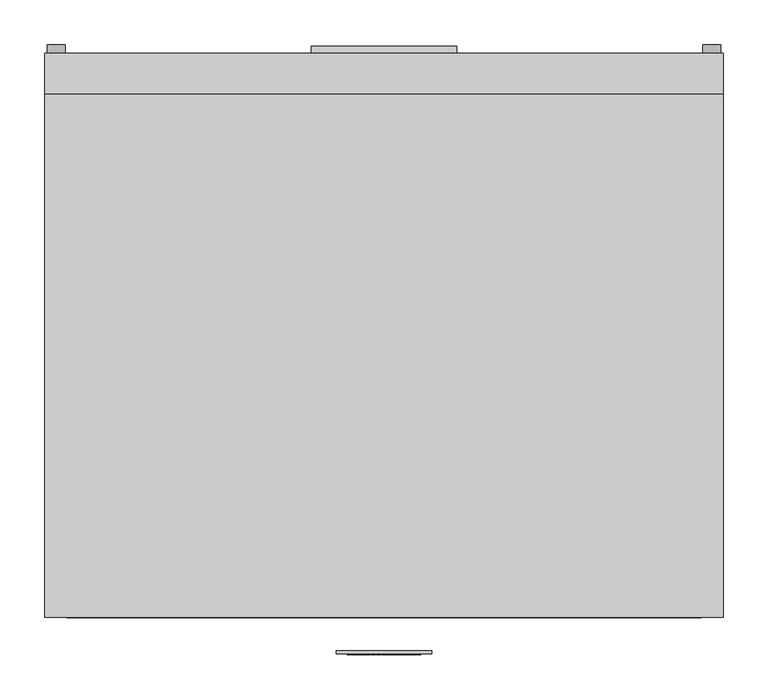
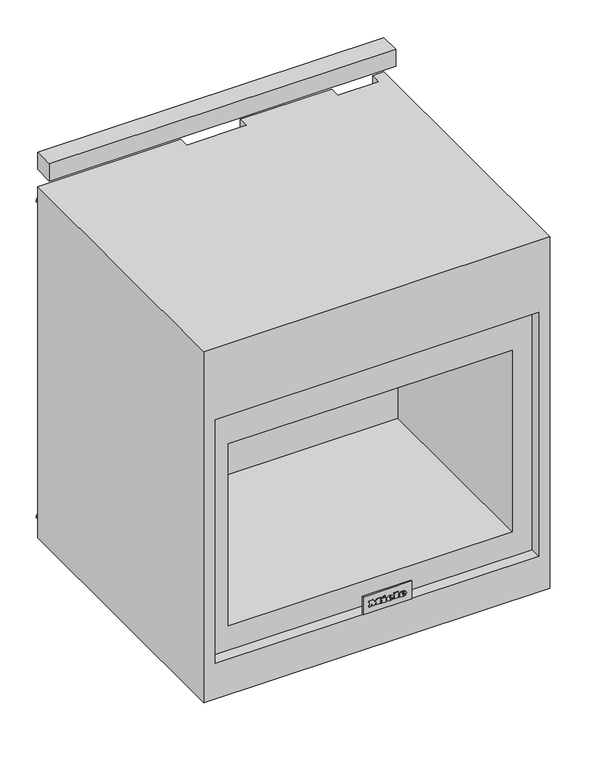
"""IFC4 building model written with IfcOpenShell, lengths in millimetres: proxy geometry, 11791560_USA_HR1924-3LP_EDST-CLS : 25192482_USA_11791560_HR1924-3LP_EDST-CLS."""

from ifc_helpers import new_model, si_unit, point, frame, frame_2d, origin, place, context, project, spatial, polyline, circle_curve, ellipse_curve, trimmed, segment, composite_curve, outline, extrude, faceted_brep, source, transform, mapped, element, save
from ifc_brep_helpers import plane_surface, cylinder_surface, revolved_surface, extruded_surface, advanced_brep


def specialty_equipment_ec7f813b(model_context):
    return source(origin(), model_context, "Body", "SolidModel", [
        faceted_brep([(356.0, -608.0, 695.0), (-356.0, -608.0, 695.0), (-356.0, -608.0, 128.0), (356.0, -608.0, 128.0), (312.0, -608.0, 608.0), (312.0, -608.0, 185.0), (-312.0, -608.0, 185.0), (-312.0, -608.0, 608.0), (356.0, -633.0, 128.0), (356.0, -633.0, 695.0), (-356.0, -633.0, 128.0), (-356.0, -633.0, 695.0), (-381.0, 0.0, 862.0), (-381.0, -633.0, 862.0), (381.0, -633.0, 862.0), (381.0, 0.0, 862.0), (356.0, 0.0, 862.0), (356.0, -23.0, 862.0), (266.0, -23.0, 862.0), (266.0, 0.0, 862.0), (65.0, 0.0, 862.0), (65.0, -23.0, 862.0), (-66.0, -23.0, 862.0), (-66.0, 0.0, 862.0), (381.0, 0.0, 45.0), (381.0, -633.0, 45.0), (-381.0, -633.0, 45.0), (-381.0, 0.0, 45.0), (-356.0, 0.0, 45.0), (-356.0, -75.0, 45.0), (356.0, -75.0, 45.0), (356.0, 0.0, 45.0), (266.0, 0.0, 132.0), (65.0, 0.0, 132.0), (-66.0, 0.0, 132.0), (-270.0, 0.0, 132.0), (-270.0, 0.0, 670.0), (-186.0, 0.0, 670.0), (-186.0, 0.0, 784.0), (-335.0, 0.0, 784.0), (-335.0, 0.0, 132.0), (-356.0, 0.0, 132.0), (312.0, -173.0, 608.0), (-312.0, -173.0, 608.0), (-312.0, -173.0, 185.0), (312.0, -173.0, 185.0), (-356.0, -75.0, 132.0), (356.0, -75.0, 132.0), (-335.0, -73.0, 132.0), (-270.0, -73.0, 132.0), (-66.0, -23.0, 132.0), (65.0, -23.0, 132.0), (266.0, -23.0, 132.0), (356.0, -23.0, 132.0), (-335.0, -73.0, 784.0), (-270.0, -73.0, 784.0), (-186.0, -65.0, 784.0), (-270.0, -65.0, 784.0), (-270.0, -65.0, 670.0), (-186.0, -65.0, 670.0)], [[[0, 1, 2, 3], [4, 5, 6, 7]], [[0, 3, 8, 9]], [[3, 2, 10, 8]], [[2, 1, 11, 10]], [[1, 0, 9, 11]], [[12, 13, 14, 15, 16, 17, 18, 19, 20, 21, 22, 23]], [[24, 25, 26, 27, 28, 29, 30, 31]], [[20, 19, 32, 33]], [[15, 24, 31, 16]], [[27, 12, 23, 34, 35, 36, 37, 38, 39, 40, 41, 28]], [[13, 12, 27, 26]], [[14, 13, 26, 25], [9, 8, 10, 11]], [[15, 14, 25, 24]], [[42, 43, 44, 45]], [[42, 45, 5, 4]], [[45, 44, 6, 5]], [[44, 43, 7, 6]], [[43, 42, 4, 7]], [[46, 47, 30, 29]], [[47, 46, 41, 40, 48, 49, 35, 34, 50, 51, 33, 32, 52, 53]], [[30, 47, 53, 17, 16, 31]], [[41, 46, 29, 28]], [[54, 55, 49, 48]], [[55, 54, 39, 38, 56, 57]], [[49, 55, 57, 58, 36, 35]], [[39, 54, 48, 40]], [[17, 53, 52, 18]], [[21, 51, 50, 22]], [[51, 21, 20, 33]], [[22, 50, 34, 23]], [[18, 52, 32, 19]], [[57, 56, 59, 58]], [[59, 56, 38, 37]], [[58, 59, 37, 36]]]),
        extrude(outline(polyline([(-335.0, -65.0), (-270.0, -65.0), (-270.0, -73.0), (-335.0, -73.0), (-335.0, -65.0)])), frame((0.0, 0.0, 670.0), z_axis=(0.0, 0.0, 1.0), x_axis=(1.0, 0.0, 0.0)), (0.0, 0.0, 1.0), 114.0),
        extrude(outline(composite_curve([segment(polyline([(-301.0941465, -34.8216074), (-297.0193946, -34.8216074), (-297.0193946, -36.0727848), (-299.8300756, -36.0727848), (-299.8300756, -37.8953779), (-298.5547934, -38.5734575), (-296.8554891, -38.8730907)]), True, "CONTINUOUS"), segment(trimmed(circle_curve(frame_2d((-296.7763582, -35.1835188)), 3.6904203), [point((-296.8554891, -38.8730907))], [point((-293.0917956, -34.975672))], True, "CARTESIAN"), True, "CONTINUOUS"), segment(trimmed(circle_curve(frame_2d((-297.2742118, -35.2116028)), 4.1890654), [point((-293.0917956, -34.975672))], [point((-296.8924604, -31.0399683))], True, "CARTESIAN"), True, "CONTINUOUS"), segment(trimmed(circle_curve(frame_2d((-297.1434541, -33.7827322)), 2.7542243), [point((-296.8924604, -31.0399683))], [point((-299.2311401, -31.9862582))], True, "CARTESIAN"), True, "CONTINUOUS"), segment(polyline([(-299.2311401, -31.9862582), (-299.7913432, -33.1348449), (-300.9545959, -32.808521), (-300.2222817, -31.1459412)]), True, "CONTINUOUS"), segment(trimmed(circle_curve(frame_2d((-297.0056573, -34.3038983)), 4.5077007), [point((-300.2222817, -31.1459412))], [point((-296.8478593, -29.7989604))], False, "CARTESIAN"), True, "CONTINUOUS"), segment(trimmed(circle_curve(frame_2d((-297.0297107, -35.0029797)), 5.2071956), [point((-296.8478593, -29.7989604))], [point((-291.8225151, -35.0029797))], False, "CARTESIAN"), True, "CONTINUOUS"), segment(trimmed(circle_curve(frame_2d((-297.0187023, -34.9634409)), 5.1963376), [point((-291.8225151, -35.0029797))], [point((-297.0187023, -40.1597785))], False, "CARTESIAN"), True, "CONTINUOUS"), segment(polyline([(-297.0187023, -40.1597785), (-299.0821579, -39.7823822), (-301.0941465, -38.5734575), (-301.0941465, -34.8216074)]), True, "CONTINUOUS")], self_intersect=False)), frame((0.0, 0.0, 753.0), z_axis=(0.0, 0.0, 1.0), x_axis=(1.0, 0.0, 0.0)), (0.0, 0.0, 1.0), 1.0),
        extrude(outline(composite_curve([segment(polyline([(-311.4581842, -37.6489066), (-310.202206, -37.8031213), (-311.1593436, -39.5606642)]), True, "CONTINUOUS"), segment(trimmed(circle_curve(frame_2d((-313.3057471, -36.6354063)), 3.6282478), [point((-311.1593436, -39.5606642))], [point((-314.8962663, -39.8964538))], False, "CARTESIAN"), True, "CONTINUOUS"), segment(trimmed(circle_curve(frame_2d((-313.7731504, -37.593725)), 2.5620205), [point((-314.8962663, -39.8964538))], [point((-316.32893, -37.7724425))], False, "CARTESIAN"), True, "CONTINUOUS"), segment(trimmed(circle_curve(frame_2d((-314.617737, -37.6527843)), 1.7153715), [point((-316.32893, -37.7724425))], [point((-315.147816, -36.021369))], False, "CARTESIAN"), True, "CONTINUOUS"), segment(polyline([(-315.147816, -36.021369), (-313.3069947, -35.4232499), (-311.987673, -33.9770867)]), True, "CONTINUOUS"), segment(trimmed(circle_curve(frame_2d((-313.1408399, -36.351197)), 2.6393548), [point((-311.987673, -33.9770867))], [point((-314.2940069, -33.9770867))], True, "CARTESIAN"), True, "CONTINUOUS"), segment(polyline([(-314.2940069, -33.9770867), (-314.7553884, -34.6611129), (-316.0084996, -34.5072502), (-315.5756304, -33.3795875)]), True, "CONTINUOUS"), segment(trimmed(circle_curve(frame_2d((-312.9527143, -36.6576461)), 4.1982564), [point((-315.5756304, -33.3795875))], [point((-313.0505395, -32.4605295))], False, "CARTESIAN"), True, "CONTINUOUS"), segment(trimmed(circle_curve(frame_2d((-312.9805679, -35.4626064)), 3.0028922), [point((-313.0505395, -32.4605295))], [point((-310.5718203, -33.6694816))], False, "CARTESIAN"), True, "CONTINUOUS"), segment(trimmed(circle_curve(frame_2d((-312.4380028, -34.5301363)), 2.0550823), [point((-310.5718203, -33.6694816))], [point((-311.4341096, -36.323335))], False, "CARTESIAN"), True, "CONTINUOUS"), segment(polyline([(-311.4341096, -36.323335), (-313.3494535, -36.9828408), (-315.0597255, -37.9076387), (-314.6768706, -38.6156702)]), True, "CONTINUOUS"), segment(trimmed(circle_curve(frame_2d((-313.3695779, -35.6018954)), 3.2850956), [point((-314.6768706, -38.6156702))], [point((-312.0622852, -38.6156702))], True, "CARTESIAN"), True, "CONTINUOUS"), segment(polyline([(-312.0622852, -38.6156702), (-311.4581842, -37.6489066)]), True, "CONTINUOUS")], self_intersect=False)), frame((0.0, 0.0, 753.0), z_axis=(0.0, 0.0, 1.0), x_axis=(1.0, 0.0, 0.0)), (0.0, 0.0, 1.0), 1.0),
        extrude(outline(composite_curve([segment(polyline([(-308.0009008, -40.0), (-309.2635363, -40.0), (-309.0191787, -38.9415709), (-308.8778726, -34.1117735)]), True, "CONTINUOUS"), segment(trimmed(circle_curve(frame_2d((-307.387549, -34.1553762)), 1.4909613), [point((-308.8778726, -34.1117735))], [point((-307.6381402, -32.6856246))], False, "CARTESIAN"), True, "CONTINUOUS"), segment(trimmed(circle_curve(frame_2d((-306.1175682, -37.7832301)), 5.3195602), [point((-307.6381402, -32.6856246))], [point((-304.440667, -32.7348914))], False, "CARTESIAN"), True, "CONTINUOUS"), segment(polyline([(-304.440667, -32.7348914), (-303.3643767, -33.4338425), (-302.8177226, -34.6616478), (-304.0710839, -34.8155412), (-304.6628147, -33.9704619)]), True, "CONTINUOUS"), segment(trimmed(circle_curve(frame_2d((-305.889909, -36.6278559)), 2.9270297), [point((-304.6628147, -33.9704619))], [point((-307.335883, -34.0829271))], True, "CARTESIAN"), True, "CONTINUOUS"), segment(polyline([(-307.335883, -34.0829271), (-307.6819155, -35.289686), (-304.4250607, -35.9227545)]), True, "CONTINUOUS"), segment(trimmed(circle_curve(frame_2d((-304.8373847, -38.0439776)), 2.1609254), [point((-304.4250607, -35.9227545))], [point((-303.2872437, -39.5495212))], False, "CARTESIAN"), True, "CONTINUOUS"), segment(trimmed(circle_curve(frame_2d((-305.2230106, -36.6941434)), 3.4496922), [point((-303.2872437, -39.5495212))], [point((-306.4810512, -39.9062626))], False, "CARTESIAN"), True, "CONTINUOUS"), segment(polyline([(-306.4810512, -39.9062626), (-307.6943945, -39.0566705), (-308.0009008, -40.0)]), True, "CONTINUOUS")], self_intersect=False), holes=[composite_curve([segment(polyline([(-307.6808047, -36.7241112), (-307.4778117, -37.8753414), (-306.6808418, -38.5929363), (-305.3846505, -38.8921857)]), True, "CONTINUOUS"), segment(trimmed(circle_curve(frame_2d((-305.1641539, -37.9371101)), 0.980198), [point((-305.3846505, -38.8921857))], [point((-304.5826105, -37.148063))], True, "CARTESIAN"), True, "CONTINUOUS"), segment(polyline([(-304.5826105, -37.148063), (-305.683896, -36.9339948), (-307.6808047, -36.7241112)]), True, "CONTINUOUS")], self_intersect=False)]), frame((0.0, 0.0, 753.0), z_axis=(0.0, 0.0, 1.0), x_axis=(1.0, 0.0, 0.0)), (0.0, 0.0, 1.0), 1.0),
        extrude(outline(composite_curve([segment(trimmed(circle_curve(frame_2d((-152.0, 39.6862697)), 39.6862697), [point((-112.6710759, 45.0))], [point((-191.3289241, 45.0))], False, "CARTESIAN"), True, "CONTINUOUS"), segment(polyline([(-191.3289241, 45.0), (-112.6710759, 45.0)]), True, "CONTINUOUS")], self_intersect=False)), frame((206.0, 0.0, 0.0), z_axis=(1.0, 0.0, 0.0), x_axis=(0.0, 1.0, 0.0)), (0.0, 0.0, 1.0), 28.0),
        extrude(outline(polyline([(-81.5, 8.0), (81.5, 8.0), (81.5, 0.0), (-81.5, 0.0), (-81.5, 8.0)])), frame((0.0, 0.0, 559.0), z_axis=(0.0, 0.0, 1.0), x_axis=(1.0, 0.0, 0.0)), (0.0, 0.0, 1.0), 237.0),
        extrude(outline(polyline([(275.0, -23.0), (344.0, -23.0), (344.0, -53.0), (275.0, -53.0), (275.0, -23.0)])), frame((0.0, 0.0, 117.0), z_axis=(0.0, 0.0, 1.0), x_axis=(1.0, 0.0, 0.0)), (0.0, 0.0, 1.0), 15.0),
        extrude(outline(polyline([(-258.0, 0.0), (170.0, 0.0), (170.0, -39.0), (-258.0, -39.0), (-258.0, 0.0)])), frame((0.0, 0.0, 117.0), z_axis=(0.0, 0.0, 1.0), x_axis=(1.0, 0.0, 0.0)), (0.0, 0.0, 1.0), 15.0),
        extrude(outline(composite_curve([segment(trimmed(circle_curve(frame_2d((822.0, 368.0)), 10.0), [point((822.0, 378.0))], [point((822.0, 358.0))], False, "CARTESIAN"), True, "CONTINUOUS"), segment(trimmed(circle_curve(frame_2d((822.0, 368.0)), 10.0), [point((822.0, 358.0))], [point((822.0, 378.0))], False, "CARTESIAN"), True, "CONTINUOUS")], self_intersect=False)), frame((0.0, 0.0, 0.0), z_axis=(0.0, 1.0, 0.0), x_axis=(0.0, 0.0, 1.0)), (0.0, 0.0, 1.0), 10.0),
        extrude(outline(composite_curve([segment(trimmed(circle_curve(frame_2d((87.0, 368.0)), 10.0), [point((87.0, 378.0))], [point((87.0, 358.0))], False, "CARTESIAN"), True, "CONTINUOUS"), segment(trimmed(circle_curve(frame_2d((87.0, 368.0)), 10.0), [point((87.0, 358.0))], [point((87.0, 378.0))], False, "CARTESIAN"), True, "CONTINUOUS")], self_intersect=False)), frame((0.0, 0.0, 0.0), z_axis=(0.0, 1.0, 0.0), x_axis=(0.0, 0.0, 1.0)), (0.0, 0.0, 1.0), 10.0),
        extrude(outline(composite_curve([segment(trimmed(circle_curve(frame_2d((822.0, -368.0)), 10.0), [point((822.0, -358.0))], [point((822.0, -378.0))], False, "CARTESIAN"), True, "CONTINUOUS"), segment(trimmed(circle_curve(frame_2d((822.0, -368.0)), 10.0), [point((822.0, -378.0))], [point((822.0, -358.0))], False, "CARTESIAN"), True, "CONTINUOUS")], self_intersect=False)), frame((0.0, 0.0, 0.0), z_axis=(0.0, 1.0, 0.0), x_axis=(0.0, 0.0, 1.0)), (0.0, 0.0, 1.0), 10.0),
        extrude(outline(composite_curve([segment(trimmed(circle_curve(frame_2d((87.0, -368.0)), 10.0), [point((87.0, -358.0))], [point((87.0, -378.0))], False, "CARTESIAN"), True, "CONTINUOUS"), segment(trimmed(circle_curve(frame_2d((87.0, -368.0)), 10.0), [point((87.0, -378.0))], [point((87.0, -358.0))], False, "CARTESIAN"), True, "CONTINUOUS")], self_intersect=False)), frame((0.0, 0.0, 0.0), z_axis=(0.0, 1.0, 0.0), x_axis=(0.0, 0.0, 1.0)), (0.0, 0.0, 1.0), 10.0),
        advanced_brep(
        [(32.17, -675.0, 177.1995), (32.17, -675.0, 178.563), (41.2015, -675.0, 178.563), (25.4875, -675.0, 178.563), (29.2, -675.0, 174.0), (40.972, -675.0, 177.1995), (36.895, -675.0, 177.1995), (33.682, -675.0, 175.6875), (32.17, -675.0, 180.291), (32.17, -675.0, 181.7625), (34.4785, -675.0, 181.7625), (34.4785, -675.0, 180.291), (32.17, -674.0, 177.1995), (33.682, -674.0, 175.6875), (36.895, -674.0, 177.1995), (40.972, -674.0, 177.1995), (29.2, -674.0, 174.0), (25.4875, -674.0, 178.563), (41.2015, -674.0, 178.563), (32.17, -674.0, 178.563), (32.17, -674.0, 180.291), (34.4785, -674.0, 180.291), (34.4785, -674.0, 181.7625), (32.17, -674.0, 181.7625)],
        [
            (0, 1),
            (1, 2),
            (2, 3, ellipse_curve(frame((33.3445, -675.0, 178.563), z_axis=(0.0, -1.0, 0.0), x_axis=(-1.0, 0.0, 0.0)), 7.857, 6.4935)),
            (3, 4, circle_curve(frame((30.7120736, -675.0, 179.022), z_axis=(0.0, -1.0, 0.0), x_axis=(0.0, 0.0, -1.0)), 5.2446974)),
            (4, 5, circle_curve(frame((33.1872142, -675.0, 182.586), z_axis=(0.0, -1.0, 0.0), x_axis=(0.0, 0.0, -1.0)), 9.46664)),
            (5, 6),
            (6, 7, circle_curve(frame((34.3419118, -675.0, 178.455), z_axis=(0.0, 1.0, 0.0), x_axis=(0.0, 0.0, -1.0)), 2.8450905)),
            (7, 0, circle_curve(frame((33.682, -675.0, 177.1995), z_axis=(0.0, 1.0, 0.0), x_axis=(0.0, 0.0, -1.0)), 1.512)),
            (8, 9),
            (9, 10, circle_curve(frame((33.32425, -675.0, 181.7625), z_axis=(0.0, 1.0, 0.0), x_axis=(0.0, 0.0, -1.0)), 1.15425)),
            (10, 11),
            (11, 8),
            (12, 13, circle_curve(frame((33.682, -674.0, 177.1995), z_axis=(0.0, -1.0, 0.0), x_axis=(0.0, 0.0, -1.0)), 1.512)),
            (13, 14, circle_curve(frame((34.3419118, -674.0, 178.455), z_axis=(0.0, -1.0, 0.0), x_axis=(0.0, 0.0, -1.0)), 2.8450905)),
            (14, 15),
            (15, 16, circle_curve(frame((33.1872142, -674.0, 182.586), z_axis=(0.0, 1.0, 0.0), x_axis=(0.0, 0.0, -1.0)), 9.46664)),
            (16, 17, circle_curve(frame((30.7120736, -674.0, 179.022), z_axis=(0.0, 1.0, 0.0), x_axis=(0.0, 0.0, -1.0)), 5.2446974)),
            (17, 18, ellipse_curve(frame((33.3445, -674.0, 178.563), z_axis=(0.0, 1.0, 0.0), x_axis=(-1.0, 0.0, 0.0)), 7.857, 6.4935)),
            (18, 19),
            (19, 12),
            (20, 21),
            (21, 22),
            (22, 23, circle_curve(frame((33.32425, -674.0, 181.7625), z_axis=(0.0, -1.0, 0.0), x_axis=(0.0, 0.0, -1.0)), 1.15425)),
            (23, 20),
            (0, 12),
            (19, 1),
            (18, 2),
            (5, 15),
            (14, 6),
            (17, 3),
            (13, 7),
            (16, 4),
            (8, 20),
            (23, 9),
            (22, 10),
            (21, 11),
        ],
        [
            plane_surface(frame((32.17, -675.0, 178.563), z_axis=(0.0, -1.0, 0.0), x_axis=(0.0, 0.0, 1.0))),
            plane_surface(frame((32.17, -674.0, 178.563), z_axis=(0.0, 1.0, 0.0), x_axis=(0.0, 0.0, -1.0))),
            plane_surface(frame((32.17, -675.0, 177.1995), z_axis=(1.0, 0.0, 0.0), x_axis=(0.0, 1.0, 0.0))),
            plane_surface(frame((32.17, -675.0, 178.563), z_axis=(0.0, 0.0, -1.0), x_axis=(0.0, 1.0, 0.0))),
            plane_surface(frame((40.972, -675.0, 177.1995), z_axis=(0.0, 0.0, 1.0), x_axis=(0.0, 1.0, 0.0))),
            extruded_surface(trimmed(ellipse_curve(frame((33.3445, -673.0, 178.563), z_axis=(0.0, -1.0, 0.0), x_axis=(-1.0, 0.0, 0.0)), 7.857, 6.4935), [point((41.2015, -673.0, 178.563))], [point((25.4875, -673.0, 178.563))], True, "CARTESIAN"), (0.0, -1.0, 0.0), 1.0),
            revolved_surface(polyline([(34.3419118, -674.0, 175.60990950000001), (34.3419118, -675.0, 175.60990950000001)]), (34.3419118, -674.0, 178.455), (0.0, 1.0, 0.0)),
            revolved_surface(polyline([(33.682, -674.0, 175.6875), (33.682, -675.0, 175.6875)]), (33.682, -674.0, 177.1995), (0.0, 1.0, 0.0)),
            cylinder_surface(frame((30.7120736, -674.0, 179.022), z_axis=(0.0, -1.0, 0.0), x_axis=(0.0, 0.0, -1.0)), 5.2446974),
            cylinder_surface(frame((33.1872142, -674.0, 182.586), z_axis=(0.0, -1.0, 0.0), x_axis=(0.0, 0.0, -1.0)), 9.46664),
            plane_surface(frame((32.17, -675.0, 180.291), z_axis=(1.0, 0.0, 0.0), x_axis=(0.0, 1.0, 0.0))),
            revolved_surface(polyline([(33.32425, -674.0, 180.60825), (33.32425, -675.0, 180.60825)]), (33.32425, -674.0, 181.7625), (0.0, 1.0, 0.0)),
            plane_surface(frame((34.4785, -675.0, 181.7625), z_axis=(-1.0, 0.0, 0.0), x_axis=(0.0, 1.0, 0.0))),
            plane_surface(frame((34.4785, -675.0, 180.291), z_axis=(0.0, 0.0, 1.0), x_axis=(0.0, 1.0, 0.0))),
        ],
        [
            (0, [[1, 2, 3, 4, 5, 6, 7, 8], [9, 10, 11, 12]]),
            (1, [[13, 14, 15, 16, 17, 18, 19, 20], [21, 22, 23, 24]]),
            (2, [[-1, 25, -20, 26]]),
            (3, [[-2, -26, -19, 27]]),
            (4, [[-6, 28, -15, 29]]),
            (5, [[-3, -27, -18, 30]]),
            (6, [[-7, -29, -14, 31]]),
            (7, [[-8, -31, -13, -25]]),
            (8, [[-4, -30, -17, 32]]),
            (9, [[-5, -32, -16, -28]]),
            (10, [[-9, 33, -24, 34]]),
            (11, [[-10, -34, -23, 35]]),
            (12, [[-11, -35, -22, 36]]),
            (13, [[-12, -36, -21, -33]]),
        ],
    ),
        advanced_brep(
        [(3.9955, -675.0, 177.1995), (3.9955, -675.0, 178.563), (13.027, -675.0, 178.563), (-2.687, -675.0, 178.563), (1.0255, -675.0, 174.0), (12.7975, -675.0, 177.1995), (8.7205, -675.0, 177.1995), (5.5075, -675.0, 175.6875), (3.9955, -675.0, 180.291), (3.9955, -675.0, 181.7625), (6.304, -675.0, 181.7625), (6.304, -675.0, 180.291), (3.9955, -674.0, 177.1995), (5.5075, -674.0, 175.6875), (8.7205, -674.0, 177.1995), (12.7975, -674.0, 177.1995), (1.0255, -674.0, 174.0), (-2.687, -674.0, 178.563), (13.027, -674.0, 178.563), (3.9955, -674.0, 178.563), (3.9955, -674.0, 180.291), (6.304, -674.0, 180.291), (6.304, -674.0, 181.7625), (3.9955, -674.0, 181.7625)],
        [
            (0, 1),
            (1, 2),
            (2, 3, ellipse_curve(frame((5.17, -675.0, 178.563), z_axis=(0.0, -1.0, 0.0), x_axis=(-1.0, 0.0, 0.0)), 7.857, 6.4935)),
            (3, 4, circle_curve(frame((2.5375736, -675.0, 179.022), z_axis=(0.0, -1.0, 0.0), x_axis=(0.0, 0.0, -1.0)), 5.2446974)),
            (4, 5, circle_curve(frame((5.0127142, -675.0, 182.586), z_axis=(0.0, -1.0, 0.0), x_axis=(0.0, 0.0, -1.0)), 9.46664)),
            (5, 6),
            (6, 7, circle_curve(frame((6.1674118, -675.0, 178.455), z_axis=(0.0, 1.0, 0.0), x_axis=(0.0, 0.0, -1.0)), 2.8450905)),
            (7, 0, circle_curve(frame((5.5075, -675.0, 177.1995), z_axis=(0.0, 1.0, 0.0), x_axis=(0.0, 0.0, -1.0)), 1.512)),
            (8, 9),
            (9, 10, circle_curve(frame((5.14975, -675.0, 181.7625), z_axis=(0.0, 1.0, 0.0), x_axis=(0.0, 0.0, -1.0)), 1.15425)),
            (10, 11),
            (11, 8),
            (12, 13, circle_curve(frame((5.5075, -674.0, 177.1995), z_axis=(0.0, -1.0, 0.0), x_axis=(0.0, 0.0, -1.0)), 1.512)),
            (13, 14, circle_curve(frame((6.1674118, -674.0, 178.455), z_axis=(0.0, -1.0, 0.0), x_axis=(0.0, 0.0, -1.0)), 2.8450905)),
            (14, 15),
            (15, 16, circle_curve(frame((5.0127142, -674.0, 182.586), z_axis=(0.0, 1.0, 0.0), x_axis=(0.0, 0.0, -1.0)), 9.46664)),
            (16, 17, circle_curve(frame((2.5375736, -674.0, 179.022), z_axis=(0.0, 1.0, 0.0), x_axis=(0.0, 0.0, -1.0)), 5.2446974)),
            (17, 18, ellipse_curve(frame((5.17, -674.0, 178.563), z_axis=(0.0, 1.0, 0.0), x_axis=(-1.0, 0.0, 0.0)), 7.857, 6.4935)),
            (18, 19),
            (19, 12),
            (20, 21),
            (21, 22),
            (22, 23, circle_curve(frame((5.14975, -674.0, 181.7625), z_axis=(0.0, -1.0, 0.0), x_axis=(0.0, 0.0, -1.0)), 1.15425)),
            (23, 20),
            (0, 12),
            (19, 1),
            (18, 2),
            (5, 15),
            (14, 6),
            (17, 3),
            (13, 7),
            (16, 4),
            (8, 20),
            (23, 9),
            (22, 10),
            (21, 11),
        ],
        [
            plane_surface(frame((3.9955, -675.0, 178.563), z_axis=(0.0, -1.0, 0.0), x_axis=(0.0, 0.0, 1.0))),
            plane_surface(frame((3.9955, -674.0, 178.563), z_axis=(0.0, 1.0, 0.0), x_axis=(0.0, 0.0, -1.0))),
            plane_surface(frame((3.9955, -675.0, 177.1995), z_axis=(1.0, 0.0, 0.0), x_axis=(0.0, 1.0, 0.0))),
            plane_surface(frame((3.9955, -675.0, 178.563), z_axis=(0.0, 0.0, -1.0), x_axis=(0.0, 1.0, 0.0))),
            plane_surface(frame((12.7975, -675.0, 177.1995), z_axis=(0.0, 0.0, 1.0), x_axis=(0.0, 1.0, 0.0))),
            extruded_surface(trimmed(ellipse_curve(frame((5.17, -673.0, 178.563), z_axis=(0.0, -1.0, 0.0), x_axis=(-1.0, 0.0, 0.0)), 7.857, 6.4935), [point((13.027, -673.0, 178.563))], [point((-2.687, -673.0, 178.563))], True, "CARTESIAN"), (0.0, -1.0, 0.0), 1.0),
            revolved_surface(polyline([(6.1674118, -674.0, 175.60990950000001), (6.1674118, -675.0, 175.60990950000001)]), (6.1674118, -674.0, 178.455), (0.0, 1.0, 0.0)),
            revolved_surface(polyline([(5.5075, -674.0, 175.6875), (5.5075, -675.0, 175.6875)]), (5.5075, -674.0, 177.1995), (0.0, 1.0, 0.0)),
            cylinder_surface(frame((2.5375736, -674.0, 179.022), z_axis=(0.0, -1.0, 0.0), x_axis=(0.0, 0.0, -1.0)), 5.2446974),
            cylinder_surface(frame((5.0127142, -674.0, 182.586), z_axis=(0.0, -1.0, 0.0), x_axis=(0.0, 0.0, -1.0)), 9.46664),
            plane_surface(frame((3.9955, -675.0, 180.291), z_axis=(1.0, 0.0, 0.0), x_axis=(0.0, 1.0, 0.0))),
            revolved_surface(polyline([(5.14975, -674.0, 180.60825), (5.14975, -675.0, 180.60825)]), (5.14975, -674.0, 181.7625), (0.0, 1.0, 0.0)),
            plane_surface(frame((6.304, -675.0, 181.7625), z_axis=(-1.0, 0.0, 0.0), x_axis=(0.0, 1.0, 0.0))),
            plane_surface(frame((6.304, -675.0, 180.291), z_axis=(0.0, 0.0, 1.0), x_axis=(0.0, 1.0, 0.0))),
        ],
        [
            (0, [[1, 2, 3, 4, 5, 6, 7, 8], [9, 10, 11, 12]]),
            (1, [[13, 14, 15, 16, 17, 18, 19, 20], [21, 22, 23, 24]]),
            (2, [[-1, 25, -20, 26]]),
            (3, [[-2, -26, -19, 27]]),
            (4, [[-6, 28, -15, 29]]),
            (5, [[-3, -27, -18, 30]]),
            (6, [[-7, -29, -14, 31]]),
            (7, [[-8, -31, -13, -25]]),
            (8, [[-4, -30, -17, 32]]),
            (9, [[-5, -32, -16, -28]]),
            (10, [[-9, 33, -24, 34]]),
            (11, [[-10, -34, -23, 35]]),
            (12, [[-11, -35, -22, 36]]),
            (13, [[-12, -36, -21, -33]]),
        ],
    ),
        extrude(outline(polyline([(186.7035, -10.76), (184.5165, -9.734), (186.6495, -5.1575), (188.8365, -6.17), (186.7035, -10.76)])), frame((0.0, -675.0, 0.0), z_axis=(0.0, 1.0, 0.0), x_axis=(0.0, 0.0, 1.0)), (0.0, 0.0, 1.0), 1.0),
        extrude(outline(polyline([(184.2195, -14.0945), (181.803, -14.0945), (181.803, -12.488), (176.268, -12.488), (176.268, -14.0945), (174.0, -14.0945), (174.0, -3.443), (176.268, -3.443), (176.268, -5.009), (184.2195, -5.009), (184.2195, -14.0945)])), frame((0.0, -675.0, 0.0), z_axis=(0.0, 1.0, 0.0), x_axis=(0.0, 0.0, 1.0)), (0.0, 0.0, 1.0), 1.0),
        extrude(outline(polyline([(185.2995, 13.783), (185.2995, 15.403), (176.268, 15.403), (176.268, 13.783), (174.0, 13.783), (174.0, 24.7315), (176.268, 24.7315), (176.268, 23.071), (187.5, 23.071), (187.5, 13.783), (185.2995, 13.783)])), frame((0.0, -675.0, 0.0), z_axis=(0.0, 1.0, 0.0), x_axis=(0.0, 0.0, 1.0)), (0.0, 0.0, 1.0), 1.0),
        extrude(outline(polyline([(185.2995, -41.0), (185.2995, -39.3665), (176.268, -39.3665), (176.268, -41.0), (174.0, -41.0), (174.0, -35.06), (176.268, -35.06), (176.268, -36.68), (181.9756247, -36.68), (174.0, -30.6455), (182.2527223, -24.584), (176.268, -24.584), (176.268, -26.2445), (174.0, -26.2445), (174.0, -15.4715), (176.268, -15.4715), (176.268, -17.186), (185.2995, -17.186), (185.2995, -15.4715), (187.5, -15.4715), (187.5, -23.693), (182.4375, -27.635), (187.5, -31.5905), (187.5, -41.0), (185.2995, -41.0)])), frame((0.0, -675.0, 0.0), z_axis=(0.0, 1.0, 0.0), x_axis=(0.0, 0.0, 1.0)), (0.0, 0.0, 1.0), 1.0),
        extrude(outline(polyline([(381.0, 0.0), (381.0, -45.0), (-381.0, -45.0), (-381.0, 0.0), (381.0, 0.0)])), frame((0.0, 0.0, 902.0), z_axis=(0.0, 0.0, 1.0), x_axis=(1.0, 0.0, 0.0)), (0.0, 0.0, 1.0), 40.0),
        extrude(outline(composite_curve([segment(polyline([(-670.0, 160.0), (-673.5, 160.0)]), True, "CONTINUOUS"), segment(trimmed(circle_curve(frame_2d((-464.0137328, 180.5)), 210.4869263), [point((-673.5, 160.0))], [point((-673.5, 201.0))], False, "CARTESIAN"), True, "CONTINUOUS"), segment(polyline([(-673.5, 201.0), (-670.0, 201.0), (-670.0, 160.0)]), True, "CONTINUOUS")], self_intersect=False)), frame((-53.5, 0.0, 0.0), z_axis=(1.0, 0.0, 0.0), x_axis=(0.0, 1.0, 0.0)), (0.0, 0.0, 1.0), 107.0),
    ])


if __name__ == "__main__":
    model = new_model("IFC4")
    model_context = context("Model", 3, world=origin())
    ifc_project = project(units=[si_unit("LENGTHUNIT", "METRE", prefix="MILLI")], contexts=[model_context])
    site = spatial("IfcSite", under=ifc_project)
    building = spatial("IfcBuilding", under=site)
    placement = place(None, origin())
    specialty_equipment_shape = specialty_equipment_ec7f813b(model_context)
    element("IfcBuildingElementProxy", 1, Name="11791560_USA_HR1924-3LP_EDST-CLS : 25192482_USA_11791560_HR1924-3LP_EDST-CLS", ObjectType="11791560_USA_HR1924-3LP_EDST-CLS : 25192482_USA_11791560_HR1924-3LP_EDST-CLS", at=placement, inside=building, context=model_context, shape_type="MappedRepresentation", body=[
        mapped(specialty_equipment_shape, transform((0.0, 0.0, 0.0), x_axis=(1.0, 0.0, 0.0), y_axis=(0.0, 1.0, 0.0), z_axis=(0.0, 0.0, 1.0))),
    ])
    save(model, "model.ifc")
